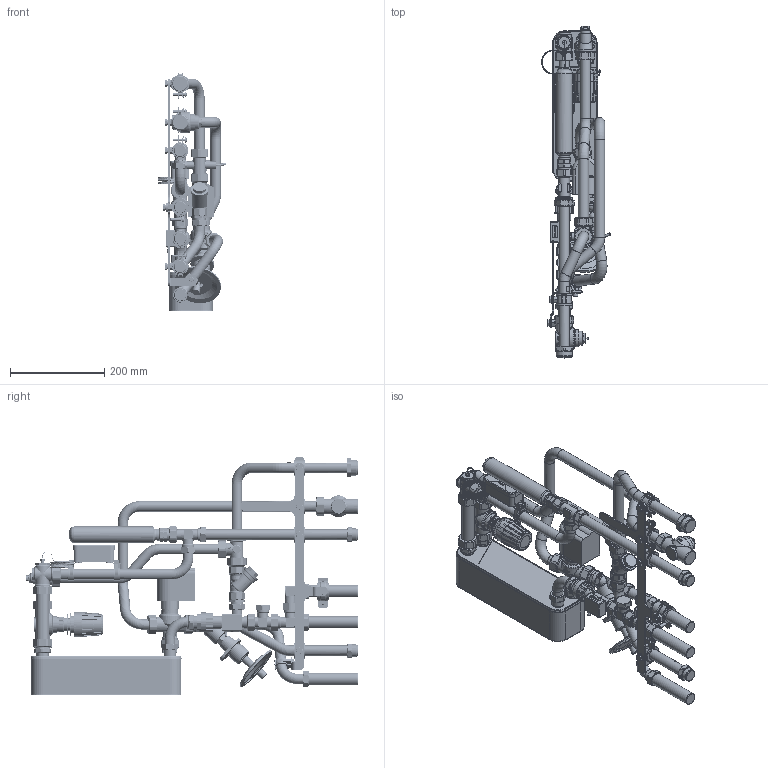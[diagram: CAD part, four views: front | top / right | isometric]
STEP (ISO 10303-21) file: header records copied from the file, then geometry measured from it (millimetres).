
FILE_DESCRIPTION(/* description */ (''),/* implementation_level */ '2;1');
FILE_NAME(/* name */ 'C:\Users\hansh\Desktop\17012017_002_Shrinkwrap_5-hh.stp',/* time_stamp */ '2019-05-07T08:43:20+02:00',/* author */ ('hansh'),/* organization */ (''),/* preprocessor_version */ 'ST-DEVELOPER v17',/* originating_system */ 'Autodesk Inventor 2018',/* authorisation */ '');
FILE_SCHEMA (('AUTOMOTIVE_DESIGN { 1 0 10303 214 3 1 1 }'));
Products named in the file (1): 17012017_002_Shrinkwrap_5
Bounding box: 145.51 x 703.8 x 504.55 mm (x, y, z)
Volume: 5937283.5 mm3; surface area: 802988.1 mm2
Topology: 4 solids, 4 shells, 4556 faces, 12267 edges, 7957 vertices
Faces by surface type: plane 2043, cylinder 1020, bspline 776, cone 508, torus 186, sphere 23
Full cylindrical faces by diameter (mm): 1 x5, 3 x1, 3.75 x1, 5.459 x5, 6 x10, 7 x1, 7.723 x1, 8 x6, 10 x3, 11.4 x5, 13 x1, 16 x10, 18 x1, 19.8 x1, 21 x1, 22 x23, 22.1 x6, 23 x13, 23.5 x1, 24 x3, 25 x1, 25.5 x1, 26 x4, 26.4 x6, 26.441 x11, 26.9 x1, 27 x3, 27.3 x1, 28 x2, 29.5 x1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
Entity records: 235008 total; most frequent: CARTESIAN_POINT 121257, ORIENTED_EDGE 24484, DIRECTION 20867, EDGE_CURVE 12242, VERTEX_POINT 7957, AXIS2_PLACEMENT_3D 7624, LINE 5619, VECTOR 5619
